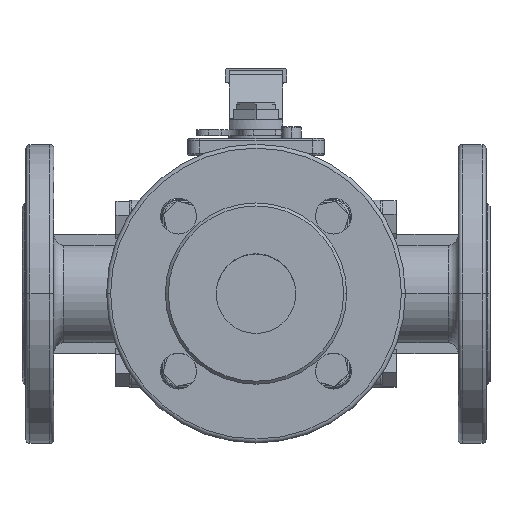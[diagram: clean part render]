
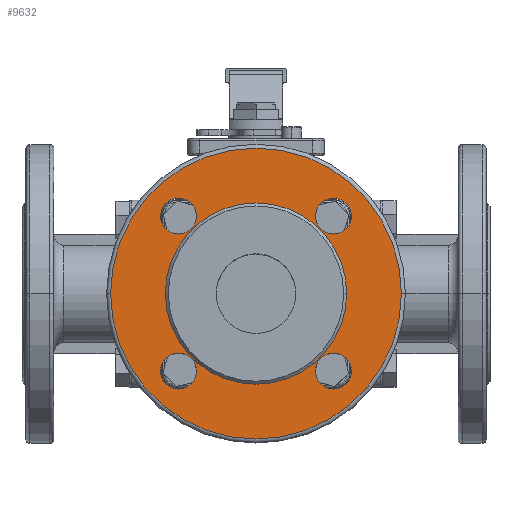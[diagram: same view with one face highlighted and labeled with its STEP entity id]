
A CAD part, top view. The second image highlights one B-rep face of the part: STEP entity #9632.
In plain terms, the highlighted planar face has unit normal (0, 0, 1) as drawn and (1, 0, 0) by its records, which use the part's own axes.
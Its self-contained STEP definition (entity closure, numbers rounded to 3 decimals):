
#806 = EDGE_CURVE ( 'NONE', #9188, #9189, #5035, .T. ) ;
#808 = EDGE_CURVE ( 'NONE', #9186, #9187, #5030, .T. ) ;
#3025 = CARTESIAN_POINT ( 'NONE',  ( 62.45, 0., -73. ) ) ;
#3028 = CARTESIAN_POINT ( 'NONE',  ( 62.45, 0., 73. ) ) ;
#3035 = CARTESIAN_POINT ( 'NONE',  ( 62.45, 38.891, 47.891 ) ) ;
#3036 = CARTESIAN_POINT ( 'NONE',  ( 62.45, 38.891, 29.891 ) ) ;
#3039 = CARTESIAN_POINT ( 'NONE',  ( 62.45, -38.891, 47.891 ) ) ;
#3040 = CARTESIAN_POINT ( 'NONE',  ( 62.45, -38.891, 29.891 ) ) ;
#3043 = CARTESIAN_POINT ( 'NONE',  ( 62.45, -38.891, -29.891 ) ) ;
#3044 = CARTESIAN_POINT ( 'NONE',  ( 62.45, -38.891, -47.891 ) ) ;
#3045 = CARTESIAN_POINT ( 'NONE',  ( 62.45, 0., -45.5 ) ) ;
#3046 = CARTESIAN_POINT ( 'NONE',  ( 62.45, 0., 45.5 ) ) ;
#3047 = CARTESIAN_POINT ( 'NONE',  ( 62.45, 38.891, -29.891 ) ) ;
#3048 = CARTESIAN_POINT ( 'NONE',  ( 62.45, 38.891, -47.891 ) ) ;
#3462 = CIRCLE ( 'NONE', #3480, 9. ) ;
#3475 = CIRCLE ( 'NONE', #3478, 73. ) ;
#3477 = CIRCLE ( 'NONE', #3482, 9. ) ;
#3478 = AXIS2_PLACEMENT_3D ( 'NONE', #6494, #6495, #6496 ) ;
#3479 = CIRCLE ( 'NONE', #3484, 9. ) ;
#3480 = AXIS2_PLACEMENT_3D ( 'NONE', #6497, #6498, #6499 ) ;
#3482 = AXIS2_PLACEMENT_3D ( 'NONE', #6500, #6501, #6502 ) ;
#3483 = CIRCLE ( 'NONE', #3486, 9. ) ;
#3484 = AXIS2_PLACEMENT_3D ( 'NONE', #6503, #6504, #6505 ) ;
#3485 = CIRCLE ( 'NONE', #3488, 45.5 ) ;
#3486 = AXIS2_PLACEMENT_3D ( 'NONE', #6506, #6507, #6508 ) ;
#3488 = AXIS2_PLACEMENT_3D ( 'NONE', #6510, #6511, #6512 ) ;
#3620 = AXIS2_PLACEMENT_3D ( 'NONE', #6980, #6981, #6982 ) ;
#4196 = CARTESIAN_POINT ( 'NONE',  ( 62.45, 38.891, -38.891 ) ) ;
#4197 = DIRECTION ( 'NONE',  ( 1., 0., 0. ) ) ;
#4198 = DIRECTION ( 'NONE',  ( 0., 0., -1. ) ) ;
#4204 = CARTESIAN_POINT ( 'NONE',  ( 62.45, 0., 0. ) ) ;
#4205 = DIRECTION ( 'NONE',  ( 1., 0., 0. ) ) ;
#4206 = DIRECTION ( 'NONE',  ( 0., 0., 1. ) ) ;
#5030 = CIRCLE ( 'NONE', #5043, 45.5 ) ;
#5035 = CIRCLE ( 'NONE', #5040, 9. ) ;
#5040 = AXIS2_PLACEMENT_3D ( 'NONE', #4196, #4197, #4198 ) ;
#5043 = AXIS2_PLACEMENT_3D ( 'NONE', #4204, #4205, #4206 ) ;
#6494 = CARTESIAN_POINT ( 'NONE',  ( 62.45, 0., 0. ) ) ;
#6495 = DIRECTION ( 'NONE',  ( 1., 0., 0. ) ) ;
#6496 = DIRECTION ( 'NONE',  ( 0., 0., 1. ) ) ;
#6497 = CARTESIAN_POINT ( 'NONE',  ( 62.45, 38.891, 38.891 ) ) ;
#6498 = DIRECTION ( 'NONE',  ( 1., 0., 0. ) ) ;
#6499 = DIRECTION ( 'NONE',  ( 0., 0., -1. ) ) ;
#6500 = CARTESIAN_POINT ( 'NONE',  ( 62.45, -38.891, 38.891 ) ) ;
#6501 = DIRECTION ( 'NONE',  ( 1., 0., 0. ) ) ;
#6502 = DIRECTION ( 'NONE',  ( 0., 0., -1. ) ) ;
#6503 = CARTESIAN_POINT ( 'NONE',  ( 62.45, -38.891, -38.891 ) ) ;
#6504 = DIRECTION ( 'NONE',  ( 1., 0., 0. ) ) ;
#6505 = DIRECTION ( 'NONE',  ( 0., 0., -1. ) ) ;
#6506 = CARTESIAN_POINT ( 'NONE',  ( 62.45, 38.891, -38.891 ) ) ;
#6507 = DIRECTION ( 'NONE',  ( 1., 0., 0. ) ) ;
#6508 = DIRECTION ( 'NONE',  ( 0., 0., -1. ) ) ;
#6510 = CARTESIAN_POINT ( 'NONE',  ( 62.45, 0., 0. ) ) ;
#6511 = DIRECTION ( 'NONE',  ( 1., 0., 0. ) ) ;
#6512 = DIRECTION ( 'NONE',  ( 0., 0., 1. ) ) ;
#6972 = FACE_BOUND ( 'NONE', #8863, .T. ) ;
#6973 = FACE_OUTER_BOUND ( 'NONE', #8862, .T. ) ;
#6974 = FACE_BOUND ( 'NONE', #8841, .T. ) ;
#6975 = FACE_BOUND ( 'NONE', #8876, .T. ) ;
#6976 = PLANE ( 'NONE',  #3620 ) ;
#6977 = FACE_BOUND ( 'NONE', #8832, .T. ) ;
#6979 = FACE_BOUND ( 'NONE', #8868, .T. ) ;
#6980 = CARTESIAN_POINT ( 'NONE',  ( 62.45, 0., 0. ) ) ;
#6981 = DIRECTION ( 'NONE',  ( -1., 0., 0. ) ) ;
#6982 = DIRECTION ( 'NONE',  ( 0., 0., 1. ) ) ;
#8589 = CIRCLE ( 'NONE', #8596, 73. ) ;
#8596 = AXIS2_PLACEMENT_3D ( 'NONE', #14850, #14851, #14852 ) ;
#8601 = CIRCLE ( 'NONE', #8607, 9. ) ;
#8605 = CIRCLE ( 'NONE', #8613, 9. ) ;
#8607 = AXIS2_PLACEMENT_3D ( 'NONE', #14872, #14873, #14874 ) ;
#8611 = CIRCLE ( 'NONE', #8619, 9. ) ;
#8613 = AXIS2_PLACEMENT_3D ( 'NONE', #14884, #14885, #14886 ) ;
#8619 = AXIS2_PLACEMENT_3D ( 'NONE', #14897, #14898, #14899 ) ;
#8832 = EDGE_LOOP ( 'NONE', ( #10605, #10606 ) ) ;
#8841 = EDGE_LOOP ( 'NONE', ( #10611, #10612 ) ) ;
#8862 = EDGE_LOOP ( 'NONE', ( #10601, #10602 ) ) ;
#8863 = EDGE_LOOP ( 'NONE', ( #10609, #10610 ) ) ;
#8868 = EDGE_LOOP ( 'NONE', ( #10607, #10608 ) ) ;
#8876 = EDGE_LOOP ( 'NONE', ( #10603, #10604 ) ) ;
#9166 = VERTEX_POINT ( 'NONE', #3025 ) ;
#9169 = VERTEX_POINT ( 'NONE', #3028 ) ;
#9176 = VERTEX_POINT ( 'NONE', #3035 ) ;
#9177 = VERTEX_POINT ( 'NONE', #3036 ) ;
#9180 = VERTEX_POINT ( 'NONE', #3039 ) ;
#9181 = VERTEX_POINT ( 'NONE', #3040 ) ;
#9184 = VERTEX_POINT ( 'NONE', #3043 ) ;
#9185 = VERTEX_POINT ( 'NONE', #3044 ) ;
#9186 = VERTEX_POINT ( 'NONE', #3045 ) ;
#9187 = VERTEX_POINT ( 'NONE', #3046 ) ;
#9188 = VERTEX_POINT ( 'NONE', #3047 ) ;
#9189 = VERTEX_POINT ( 'NONE', #3048 ) ;
#9515 = EDGE_CURVE ( 'NONE', #9169, #9166, #3475, .T. ) ;
#9516 = EDGE_CURVE ( 'NONE', #9177, #9176, #3462, .T. ) ;
#9517 = EDGE_CURVE ( 'NONE', #9181, #9180, #3477, .T. ) ;
#9518 = EDGE_CURVE ( 'NONE', #9185, #9184, #3479, .T. ) ;
#9519 = EDGE_CURVE ( 'NONE', #9189, #9188, #3483, .T. ) ;
#9520 = EDGE_CURVE ( 'NONE', #9187, #9186, #3485, .T. ) ;
#9632 = ADVANCED_FACE ( 'NONE', ( #6973, #6975, #6977, #6979, #6972, #6974 ), #6976, .F. ) ;
#10601 = ORIENTED_EDGE ( 'NONE', *, *, #9515, .T. ) ;
#10602 = ORIENTED_EDGE ( 'NONE', *, *, #12947, .T. ) ;
#10603 = ORIENTED_EDGE ( 'NONE', *, *, #9516, .F. ) ;
#10604 = ORIENTED_EDGE ( 'NONE', *, *, #12953, .F. ) ;
#10605 = ORIENTED_EDGE ( 'NONE', *, *, #9517, .F. ) ;
#10606 = ORIENTED_EDGE ( 'NONE', *, *, #12957, .F. ) ;
#10607 = ORIENTED_EDGE ( 'NONE', *, *, #9518, .F. ) ;
#10608 = ORIENTED_EDGE ( 'NONE', *, *, #12961, .F. ) ;
#10609 = ORIENTED_EDGE ( 'NONE', *, *, #9519, .F. ) ;
#10610 = ORIENTED_EDGE ( 'NONE', *, *, #806, .F. ) ;
#10611 = ORIENTED_EDGE ( 'NONE', *, *, #808, .F. ) ;
#10612 = ORIENTED_EDGE ( 'NONE', *, *, #9520, .F. ) ;
#12947 = EDGE_CURVE ( 'NONE', #9166, #9169, #8589, .T. ) ;
#12953 = EDGE_CURVE ( 'NONE', #9176, #9177, #8601, .T. ) ;
#12957 = EDGE_CURVE ( 'NONE', #9180, #9181, #8605, .T. ) ;
#12961 = EDGE_CURVE ( 'NONE', #9184, #9185, #8611, .T. ) ;
#14850 = CARTESIAN_POINT ( 'NONE',  ( 62.45, 0., 0. ) ) ;
#14851 = DIRECTION ( 'NONE',  ( 1., 0., 0. ) ) ;
#14852 = DIRECTION ( 'NONE',  ( 0., 0., 1. ) ) ;
#14872 = CARTESIAN_POINT ( 'NONE',  ( 62.45, 38.891, 38.891 ) ) ;
#14873 = DIRECTION ( 'NONE',  ( 1., 0., 0. ) ) ;
#14874 = DIRECTION ( 'NONE',  ( 0., 0., -1. ) ) ;
#14884 = CARTESIAN_POINT ( 'NONE',  ( 62.45, -38.891, 38.891 ) ) ;
#14885 = DIRECTION ( 'NONE',  ( 1., 0., 0. ) ) ;
#14886 = DIRECTION ( 'NONE',  ( 0., 0., -1. ) ) ;
#14897 = CARTESIAN_POINT ( 'NONE',  ( 62.45, -38.891, -38.891 ) ) ;
#14898 = DIRECTION ( 'NONE',  ( 1., 0., 0. ) ) ;
#14899 = DIRECTION ( 'NONE',  ( 0., 0., -1. ) ) ;
